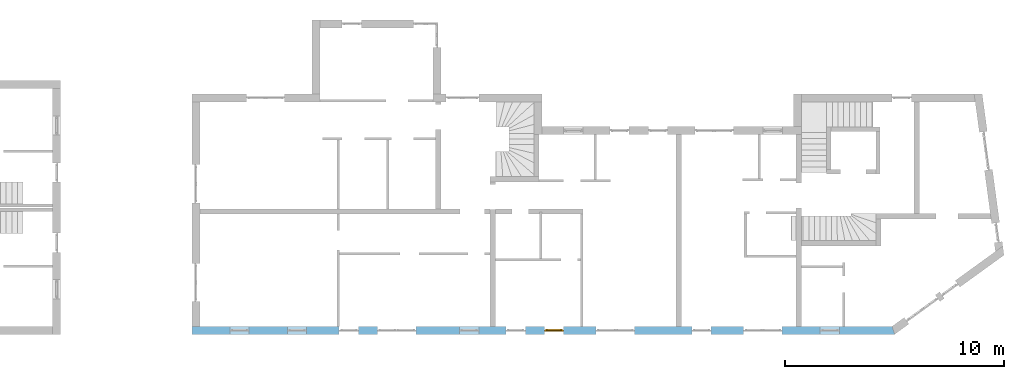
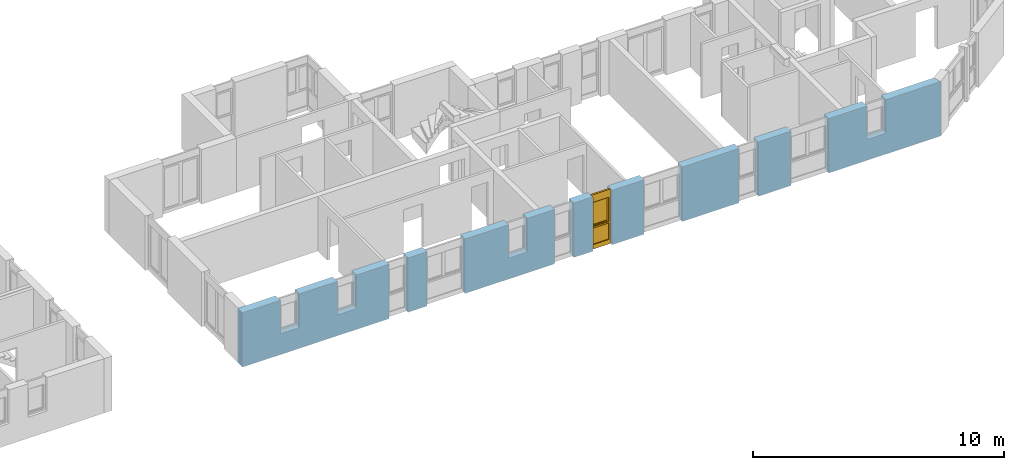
# One storey, part 25 of 42: 1 window, 11 openings, plus 1 element that does not belong to this part.
"""IFC2X3 building model written with IfcOpenShell, lengths in millimetres."""

import ifcopenshell
import ifcopenshell.guid

model = None  # the IFC model being written
_history = None  # IfcOwnerHistory: only IFC2X3 demands one
_inside = {}  # id of a spatial element -> (the spatial element, [elements in it])
_under = {}  # id of a project, library or spatial element -> (it, [spatial elements below it])
_declared = {}  # id of a project -> (the project, [libraries it declares])
_typed = {}  # id of a type object -> (the type object, [elements of that type])
_made_of = {}  # id of a material, layer set ... -> (it, [elements and type objects made of it])


def new_model(schema):
    """Start an empty IFC model of exactly this schema.

    Asked for "IFC4X3", IfcOpenShell would pick the latest addendum, in which some entities
    have other attributes; the version numbers below select the first issue.
    IFC2X3 requires an IfcOwnerHistory on every rooted entity: one is made here for all.
    """
    global model, _history
    if schema == "IFC4X3":
        model = ifcopenshell.file(schema_version=(4, 3, 0, 0))
    else:
        model = ifcopenshell.file(schema=schema)
    _inside.clear()
    _under.clear()
    _declared.clear()
    _typed.clear()
    _made_of.clear()
    _history = None
    if model.schema == "IFC2X3":
        org = make("IfcOrganization", Name="unknown")
        user = make(
            "IfcPersonAndOrganization",
            ThePerson=make("IfcPerson", FamilyName="unknown"),
            TheOrganization=org,
        )
        app = make(
            "IfcApplication",
            ApplicationDeveloper=org,
            Version="unknown",
            ApplicationFullName="unknown",
            ApplicationIdentifier="unknown",
        )
        _history = make(
            "IfcOwnerHistory",
            OwningUser=user,
            OwningApplication=app,
            ChangeAction="ADDED",
            CreationDate=0,
        )
    return model


def make(cls, **values):
    """One entity of the class cls with the attributes given. An attribute that is None is left unset."""
    return model.create_entity(
        cls, **{name: value for name, value in values.items() if value is not None}
    )


def entity(cls, *values):
    """Any entity or typed value of the class cls, its attributes in the order of the schema. None: left unset."""
    e = model.create_entity(cls)
    for i, value in enumerate(values):
        if value is not None:
            e[i] = value
    return e


def rooted(cls, **values):
    """An entity with a GlobalId (a new one), such as an element, a storey or a relation."""
    return make(cls, GlobalId=ifcopenshell.guid.new(), OwnerHistory=_history, **values)


def si_unit(unit_type, name, prefix=None):
    """IfcSIUnit, for example si_unit("LENGTHUNIT", "METRE", prefix="MILLI")."""
    return make("IfcSIUnit", UnitType=unit_type, Prefix=prefix, Name=name)


def converted_unit(unit_type, name, factor, base, dimensions=None, offset=None):
    """IfcConversionBasedUnit, such as the inch: factor (a typed value) times the base unit."""
    return make(
        "IfcConversionBasedUnit"
        if offset is None
        else "IfcConversionBasedUnitWithOffset",
        ConversionOffset=offset,
        Dimensions=None
        if dimensions is None
        else entity("IfcDimensionalExponents", *dimensions),
        UnitType=unit_type,
        Name=name,
        ConversionFactor=make(
            "IfcMeasureWithUnit", ValueComponent=factor, UnitComponent=base
        ),
    )


def assignment(units):
    """IfcUnitAssignment: the units of a project."""
    return None if units is None else make("IfcUnitAssignment", Units=units)


def point(xyz):
    """IfcCartesianPoint."""
    return None if xyz is None else make("IfcCartesianPoint", Coordinates=xyz)


def direction(xyz):
    """IfcDirection."""
    return None if xyz is None else make("IfcDirection", DirectionRatios=xyz)


def frame(location, z_axis=None, x_axis=None):
    """IfcAxis2Placement3D, a coordinate frame: its origin and axes. An axis left out is left unset."""
    return make(
        "IfcAxis2Placement3D",
        Location=point(location),
        Axis=direction(z_axis),
        RefDirection=direction(x_axis),
    )


def frame_2d(location, x_axis=None):
    """IfcAxis2Placement2D, a coordinate frame in the plane: its origin and x axis."""
    return make(
        "IfcAxis2Placement2D", Location=point(location), RefDirection=direction(x_axis)
    )


def origin():
    """The frame at (0, 0, 0) with its axes left unset."""
    return frame((0.0, 0.0, 0.0))


def origin_with_axes():
    """The frame at (0, 0, 0) with the z axis (0, 0, 1) and the x axis (1, 0, 0) written out."""
    return frame((0.0, 0.0, 0.0), z_axis=(0.0, 0.0, 1.0), x_axis=(1.0, 0.0, 0.0))


def place(relative_to, where):
    """IfcLocalPlacement: puts the frame where relative to a parent placement (None: the world)."""
    return make(
        "IfcLocalPlacement", PlacementRelTo=relative_to, RelativePlacement=where
    )


def context(
    kind, dimensions, precision=None, world=None, true_north=None, identifier=None
):
    """IfcGeometricRepresentationContext, for example the 3D "Model" context."""
    return make(
        "IfcGeometricRepresentationContext",
        ContextIdentifier=identifier,
        ContextType=kind,
        CoordinateSpaceDimension=dimensions,
        Precision=precision,
        WorldCoordinateSystem=world,
        TrueNorth=true_north,
    )


def subcontext(parent, identifier, kind, view, scale=None):
    """IfcGeometricRepresentationSubContext, for example "Body" below "Model"."""
    return make(
        "IfcGeometricRepresentationSubContext",
        ContextIdentifier=identifier,
        ContextType=kind,
        ParentContext=parent,
        TargetScale=scale,
        TargetView=view,
    )


def project(units=None, contexts=None):
    """IfcProject with its units and contexts."""
    return rooted(
        "IfcProject",
        Name="project",
        RepresentationContexts=contexts,
        UnitsInContext=assignment(units),
    )


def spatial(cls, under=None, at=None, **own):
    """A site, building, storey or space (cls), placed at a placement, below another one or the project."""
    s = rooted(cls, ObjectPlacement=at, **own)
    if under is not None:
        _under.setdefault(under.id(), (under, []))[1].append(s)
    return s


def polyline(points):
    """IfcPolyline through the points."""
    return make("IfcPolyline", Points=[point(p) for p in points])


def profile(cls, at=None, kind="AREA", **sizes):
    """A parametric profile (cls). Its sizes go by their IFC names, for example OverallWidth=200.0."""
    return make(cls, ProfileType=kind, Position=at, **sizes)


def rectangle(**sizes):
    """IfcRectangleProfileDef."""
    return profile("IfcRectangleProfileDef", **sizes)


def outline(outer, holes=None, kind="AREA"):
    """IfcArbitraryClosedProfileDef: a profile drawn as a closed curve; with holes, ...WithVoids."""
    if holes is None:
        return make("IfcArbitraryClosedProfileDef", ProfileType=kind, OuterCurve=outer)
    return make(
        "IfcArbitraryProfileDefWithVoids",
        ProfileType=kind,
        OuterCurve=outer,
        InnerCurves=holes,
    )


def extrude(swept, where, along, depth):
    """IfcExtrudedAreaSolid: the profile swept, set in the frame where, extruded along a direction by depth."""
    return make(
        "IfcExtrudedAreaSolid",
        SweptArea=swept,
        Position=where,
        ExtrudedDirection=direction(along),
        Depth=depth,
    )


def faces_of(points, faces, orient=None, outer=None):
    """IfcFace entities. A face is a list of loops; a loop is a list of indices into points, from 0.

    orient and outer hold one flag for each loop. By default every Orientation is true, the
    first loop of a face is its IfcFaceOuterBound and the others are IfcFaceBound.
    """
    made = []
    for i, loops in enumerate(faces):
        bounds = []
        for j, loop in enumerate(loops):
            is_outer = j == 0 if outer is None else outer[i][j]
            bounds.append(
                make(
                    "IfcFaceOuterBound" if is_outer else "IfcFaceBound",
                    Bound=make("IfcPolyLoop", Polygon=[points[k] for k in loop]),
                    Orientation=True if orient is None else orient[i][j],
                )
            )
        made.append(make("IfcFace", Bounds=bounds))
    return made


def faceted_brep(points, faces, orient=None, outer=None, voids=None):
    """IfcFacetedBrep: a solid bounded by flat faces; with voids (closed shells), ...WithVoids."""
    shared = [point(p) for p in points]
    hull = make("IfcClosedShell", CfsFaces=faces_of(shared, faces, orient, outer))
    if voids is None:
        return make("IfcFacetedBrep", Outer=hull)
    return make(
        "IfcFacetedBrepWithVoids",
        Outer=hull,
        Voids=[
            make(cls, CfsFaces=faces_of(shared, fs, o, b)) for cls, fs, o, b in voids
        ],
    )


def shape(context_of_items, identifier, shape_type, items):
    """IfcShapeRepresentation: the items that make up one representation, for example the "Body"."""
    return make(
        "IfcShapeRepresentation",
        ContextOfItems=context_of_items,
        RepresentationIdentifier=identifier,
        RepresentationType=shape_type,
        Items=items,
    )


def material(Name=None, Category=None):
    """IfcMaterial."""
    return make("IfcMaterial", Name=Name, Category=Category)


def layer(
    of_material, thickness, ventilated=None, Name=None, Category=None, Priority=None
):
    """IfcMaterialLayer: one layer of a wall or slab, of a material (None: an air gap)."""
    return make(
        "IfcMaterialLayer",
        Material=of_material,
        LayerThickness=thickness,
        IsVentilated=ventilated,
        Name=Name,
        Category=Category,
        Priority=Priority,
    )


def layer_set(layers, Name=None):
    """IfcMaterialLayerSet."""
    return make("IfcMaterialLayerSet", MaterialLayers=layers, LayerSetName=Name)


def layer_usage(for_layer_set, set_direction, sense, offset, extent=None):
    """IfcMaterialLayerSetUsage: how a layer set lies in its element."""
    return make(
        "IfcMaterialLayerSetUsage",
        ForLayerSet=for_layer_set,
        LayerSetDirection=set_direction,
        DirectionSense=sense,
        OffsetFromReferenceLine=offset,
        ReferenceExtent=extent,
    )


def made_of(thing, what):
    """Note that an element or type object is made of a material, layer set ...; save() writes the relation."""
    if what is not None:
        _made_of.setdefault(what.id(), (what, []))[1].append(thing)
    return thing


def type_object(cls, material=None, **own):
    """A type object (cls), such as IfcWallType, which elements share."""
    return made_of(rooted(cls, **own), material)


def element(
    cls,
    number,
    at=None,
    inside=None,
    cuts=None,
    type_object=None,
    material=None,
    context=None,
    identifier="Body",
    shape_type=None,
    held_by="IfcProductDefinitionShape",
    body=None,
    shapes=None,
    **own,
):
    """One element of the class cls, such as IfcWall. Its Tag is "e" and its number.

    at: its placement. inside: the storey or other place that contains it. cuts: it is an
    opening in that element (IfcRelVoidsElement). A single representation is given by context,
    identifier, shape_type and body (its items); several are given by shapes. held_by: the class
    of the entity that holds the representations. save() writes the other relations.
    """
    e = rooted(cls, Tag="e%d" % number, ObjectPlacement=at, **own)
    if body is not None:
        shapes = [shape(context, identifier, shape_type, body)]
    if shapes is not None:
        e.Representation = make(held_by, Representations=shapes)
    if inside is not None:
        _inside.setdefault(inside.id(), (inside, []))[1].append(e)
    if cuts is not None:
        rooted(
            "IfcRelVoidsElement", RelatingBuildingElement=cuts, RelatedOpeningElement=e
        )
    if type_object is not None:
        _typed.setdefault(type_object.id(), (type_object, []))[1].append(e)
    return made_of(e, material)


def fill(opening, filler):
    """IfcRelFillsElement: the door or window that sits in an opening."""
    return rooted(
        "IfcRelFillsElement",
        RelatingOpeningElement=opening,
        RelatedBuildingElement=filler,
    )


def aggregate(whole, parts):
    """IfcRelAggregates: a whole, such as a stair, and the parts it consists of."""
    return rooted("IfcRelAggregates", RelatingObject=whole, RelatedObjects=parts)


def save(model, path):
    """Write the relations noted so far, then the file.

    IfcRelAggregates (storeys below a building ...), IfcRelContainedInSpatialStructure (elements
    in a storey), IfcRelDefinesByType, IfcRelAssociatesMaterial and IfcRelDeclares: one each for
    every whole, place, type object, material and project.
    """
    for whole, parts in _under.values():
        aggregate(whole, parts)
    for where, things in _inside.values():
        rooted(
            "IfcRelContainedInSpatialStructure",
            RelatedElements=things,
            RelatingStructure=where,
        )
    for kind, things in _typed.values():
        rooted("IfcRelDefinesByType", RelatedObjects=things, RelatingType=kind)
    for what, things in _made_of.values():
        rooted("IfcRelAssociatesMaterial", RelatedObjects=things, RelatingMaterial=what)
    for by, libraries in _declared.values():
        rooted("IfcRelDeclares", RelatingContext=by, RelatedDefinitions=libraries)
    model.write(path)


model = new_model("IFC2X3")

# Units and contexts
model_context = context("Model", 3, precision=1e-05, world=origin())
body_context = subcontext(model_context, "Body", "Model", "MODEL_VIEW")
ifc_project = project(units=[si_unit("LENGTHUNIT", "METRE", prefix="MILLI"), converted_unit("PLANEANGLEUNIT", "DEGREE", entity("IfcPlaneAngleMeasure", 0.0174532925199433), si_unit("PLANEANGLEUNIT", "RADIAN"), dimensions=[0, 0, 0, 0, 0, 0, 0]), si_unit("AREAUNIT", "SQUARE_METRE"), si_unit("VOLUMEUNIT", "CUBIC_METRE")], contexts=[model_context])

# Building, storey
building_placement = place(None, origin())
building = spatial("IfcBuilding", under=ifc_project, at=building_placement, Name="Gebäude", CompositionType="ELEMENT")
storey_placement = place(building_placement, frame((0.0, 0.0, 2730.0), z_axis=(0.0, 0.0, 1.0), x_axis=(1.0, 0.0, 0.0)))
storey = spatial("IfcBuildingStorey", under=building, at=storey_placement, Name="OG.- Grundriss", CompositionType="ELEMENT", Elevation=2730.0)

# Wall, openings, window
ifc_material_1 = material(Name="Poroton")
ifc_layer = layer(ifc_material_1, 365.0000000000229)
ifc_layer_set = layer_set([ifc_layer])
ifc_layer_usage = layer_usage(ifc_layer_set, "AXIS2", "POSITIVE", 0.0)
wall_placement = place(storey_placement, frame((148357.7928067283, 125274.8877324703, 0.0), z_axis=(0.0, 0.0, 1.0), x_axis=(1.0, -2.749268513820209e-11, 0.0)))
wall = element("IfcWallStandardCase", 1, at=wall_placement, inside=storey, material=ifc_layer_usage, Name="<Unnamed Element>", context=body_context, shape_type="SweptSolid", body=[
    extrude(outline(polyline([(0.0, 0.0), (32144.99999877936, 0.0), (32026.74038666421, 365.0000000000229), (-1.003483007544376e-08, 365.0), (0.0, 0.0)])), origin_with_axes(), (0.0, 0.0, 1.0), 2650.0),
])
opening_1_placement = place(wall_placement, frame((22865.29648749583, -9.393166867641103e-11, 0.0), z_axis=(0.0, 1.0, 0.0), x_axis=(0.0, 0.0, 1.0)))
element("IfcOpeningElement", 2, at=opening_1_placement, cuts=wall, Name="Fensteröffnung", ObjectType="Opening", context=body_context, shape_type="SweptSolid", body=[
    extrude(rectangle(XDim=2650.0, YDim=885.0, at=frame_2d((1325.0, 442.5), x_axis=(1.0, 0.0))), origin_with_axes(), (0.0, 0.0, 1.0), 365.0000000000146),
])
opening_2_placement = place(wall_placement, frame((25240.29648749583, -1.030266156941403e-10, 0.0), z_axis=(0.0, 1.0, 0.0), x_axis=(0.0, 0.0, 1.0)))
element("IfcOpeningElement", 3, at=opening_2_placement, cuts=wall, Name="Fensteröffnung", ObjectType="Opening", context=body_context, shape_type="SweptSolid", body=[
    extrude(rectangle(XDim=2650.0, YDim=1760.0, at=frame_2d((1325.0, 880.0), x_axis=(1.0, 0.0))), origin_with_axes(), (0.0, 0.0, 1.0), 365.0000000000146),
])
opening_3_placement = place(wall_placement, frame((14365.26291869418, -5.847463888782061e-11, 0.0), z_axis=(0.0, 1.0, 0.0), x_axis=(0.0, 0.0, 1.0)))
element("IfcOpeningElement", 4, at=opening_3_placement, cuts=wall, Name="Fensteröffnung", ObjectType="Opening", context=body_context, shape_type="SweptSolid", body=[
    extrude(rectangle(XDim=2650.0, YDim=885.0, at=frame_2d((1325.0, 442.5), x_axis=(1.0, 0.0))), origin_with_axes(), (0.0, 0.0, 1.0), 365.0000000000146),
])
opening_4_placement = place(wall_placement, frame((16123.92212975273, -7.146586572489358e-11, 0.0), z_axis=(0.0, 1.0, 0.0), x_axis=(0.0, 0.0, 1.0)))
opening_4 = element("IfcOpeningElement", 5, at=opening_4_placement, cuts=wall, Name="Fensteröffnung", ObjectType="Opening", context=body_context, shape_type="SweptSolid", body=[
    extrude(rectangle(XDim=2650.0, YDim=885.0, at=frame_2d((1325.0, 442.5), x_axis=(1.0, 0.0))), origin_with_axes(), (0.0, 0.0, 1.0), 365.0000000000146),
])
opening_5_placement = place(wall_placement, frame((6739.999999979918, -3.114109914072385e-11, 0.0), z_axis=(0.0, 1.0, 0.0), x_axis=(0.0, 0.0, 1.0)))
element("IfcOpeningElement", 6, at=opening_5_placement, cuts=wall, Name="Fensteröffnung", ObjectType="Opening", context=body_context, shape_type="SweptSolid", body=[
    extrude(rectangle(XDim=2650.0, YDim=885.0, at=frame_2d((1325.0, 442.5), x_axis=(1.0, 0.0))), origin_with_axes(), (0.0, 0.0, 1.0), 365.0000000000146),
])
opening_6_placement = place(wall_placement, frame((8489.999999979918, -3.477907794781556e-11, 0.0), z_axis=(0.0, 1.0, 0.0), x_axis=(0.0, 0.0, 1.0)))
element("IfcOpeningElement", 7, at=opening_6_placement, cuts=wall, Name="Fensteröffnung", ObjectType="Opening", context=body_context, shape_type="SweptSolid", body=[
    extrude(rectangle(XDim=2650.0, YDim=1760.0, at=frame_2d((1325.0, 880.0), x_axis=(1.0, 0.0))), origin_with_axes(), (0.0, 0.0, 1.0), 365.0000000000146),
])
opening_7_placement = place(wall_placement, frame((1740.0, -3.114109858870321e-11, 1020.0), z_axis=(0.0, 1.0, 0.0), x_axis=(0.0, 0.0, 1.0)))
element("IfcOpeningElement", 8, at=opening_7_placement, cuts=wall, Name="Fensteröffnung", ObjectType="Opening", context=body_context, shape_type="SweptSolid", body=[
    extrude(rectangle(XDim=1630.0, YDim=885.0, at=frame_2d((815.0, 442.5), x_axis=(1.0, 0.0))), origin_with_axes(), (0.0, 0.0, 1.0), 365.0000000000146),
])
opening_8_placement = place(wall_placement, frame((4365.0, -7.494236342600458e-12, 1020.0), z_axis=(0.0, 1.0, 0.0), x_axis=(0.0, 0.0, 1.0)))
element("IfcOpeningElement", 9, at=opening_8_placement, cuts=wall, Name="Fensteröffnung", ObjectType="Opening", context=body_context, shape_type="SweptSolid", body=[
    extrude(rectangle(XDim=1630.0, YDim=885.0, at=frame_2d((815.0, 442.5), x_axis=(1.0, 0.0))), origin_with_axes(), (0.0, 0.0, 1.0), 365.0000000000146),
])
opening_9_placement = place(wall_placement, frame((12240.0, -5.296897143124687e-11, 1020.0), z_axis=(0.0, 1.0, 0.0), x_axis=(0.0, 0.0, 1.0)))
element("IfcOpeningElement", 10, at=opening_9_placement, cuts=wall, Name="Fensteröffnung", ObjectType="Opening", context=body_context, shape_type="SweptSolid", body=[
    extrude(rectangle(XDim=1630.0, YDim=885.0, at=frame_2d((815.0, 442.5), x_axis=(1.0, 0.0))), origin_with_axes(), (0.0, 0.0, 1.0), 365.0000000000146),
])
opening_10_placement = place(wall_placement, frame((18490.51063065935, -4.984640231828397e-11, 0.0), z_axis=(0.0, 1.0, 0.0), x_axis=(0.0, 0.0, 1.0)))
element("IfcOpeningElement", 11, at=opening_10_placement, cuts=wall, Name="Fensteröffnung", ObjectType="Opening", context=body_context, shape_type="SweptSolid", body=[
    extrude(rectangle(XDim=2650.0, YDim=1760.0, at=frame_2d((1325.0, 880.0), x_axis=(1.0, 0.0))), origin_with_axes(), (0.0, 0.0, 1.0), 365.0000000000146),
])
opening_11_placement = place(wall_placement, frame((28740.29648749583, -1.103025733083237e-10, 1020.0), z_axis=(0.0, 1.0, 0.0), x_axis=(0.0, 0.0, 1.0)))
element("IfcOpeningElement", 12, at=opening_11_placement, cuts=wall, Name="Fensteröffnung", ObjectType="Opening", context=body_context, shape_type="SweptSolid", body=[
    extrude(rectangle(XDim=1630.0, YDim=885.0, at=frame_2d((815.0, 442.5), x_axis=(1.0, 0.0))), origin_with_axes(), (0.0, 0.0, 1.0), 365.0000000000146),
])
ifc_material_2 = material()
window_style = type_object("IfcWindowStyle", Name="Fenster", ConstructionType="NOTDEFINED", OperationType="USERDEFINED", ParameterTakesPrecedence=False, Sizeable=False)
window_placement = place(opening_4_placement, frame((0.0, 0.0, 0.0), z_axis=(1.0, 0.0, 0.0), x_axis=(0.0, 1.0, 0.0)))
window = element("IfcWindow", 13, at=window_placement, inside=storey, type_object=window_style, material=ifc_material_2, Name="Fenster", OverallHeight=2650.0, OverallWidth=885.0, context=body_context, shape_type="Brep", body=[
    faceted_brep([(885.0000000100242, 200.000000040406, 2650.0), (815.0000000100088, 200.0000000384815, 2650.0), (815.0000000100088, 200.0000000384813, -2.449293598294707e-15), (885.0000000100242, 200.0000000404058, -2.449293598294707e-15), (885.0000000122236, 120.0000000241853, 2.449293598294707e-15), (815.0000000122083, 120.0000000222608, 2.449293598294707e-15), (815.0000000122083, 120.000000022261, 2650.0), (885.0000000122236, 120.0000000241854, 2650.0), (885.0000000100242, 200.0000000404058, -2.449293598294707e-15), (885.0000000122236, 120.0000000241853, 2.449293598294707e-15), (885.0000000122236, 120.0000000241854, 2650.0), (885.0000000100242, 200.000000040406, 2650.0), (815.0000000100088, 200.0000000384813, -2.449293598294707e-15), (815.0000000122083, 120.0000000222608, 2.449293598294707e-15), (885.0000000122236, 120.0000000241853, 2.449293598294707e-15), (885.0000000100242, 200.0000000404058, -2.449293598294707e-15), (815.0000000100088, 200.0000000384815, 2650.0), (815.0000000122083, 120.000000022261, 2650.0), (815.0000000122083, 120.0000000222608, 2.449293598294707e-15), (815.0000000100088, 200.0000000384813, -2.449293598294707e-15), (885.0000000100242, 200.000000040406, 2650.0), (885.0000000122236, 120.0000000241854, 2650.0), (815.0000000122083, 120.000000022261, 2650.0), (815.0000000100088, 200.0000000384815, 2650.0)], [[[0, 1, 2, 3]], [[4, 5, 6, 7]], [[8, 9, 10, 11]], [[12, 13, 14, 15]], [[16, 17, 18, 19]], [[20, 21, 22, 23]]], orient=[[False], [False], [False], [False], [False], [False]]),
    faceted_brep([(69.99999999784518, 200.0000000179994, 2650.0), (-2.170168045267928e-09, 200.0000000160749, 2650.0), (-2.170168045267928e-09, 200.0000000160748, -2.449293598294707e-15), (69.99999999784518, 200.0000000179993, -2.449293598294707e-15), (70.00000000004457, 120.0000000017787, 2.449293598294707e-15), (2.921751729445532e-11, 119.9999999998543, 2.449293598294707e-15), (2.921751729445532e-11, 119.9999999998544, 2650.0), (70.00000000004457, 120.0000000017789, 2650.0), (69.99999999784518, 200.0000000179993, -2.449293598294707e-15), (70.00000000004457, 120.0000000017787, 2.449293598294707e-15), (70.00000000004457, 120.0000000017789, 2650.0), (69.99999999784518, 200.0000000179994, 2650.0), (-2.170168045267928e-09, 200.0000000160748, -2.449293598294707e-15), (2.921751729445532e-11, 119.9999999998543, 2.449293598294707e-15), (70.00000000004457, 120.0000000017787, 2.449293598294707e-15), (69.99999999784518, 200.0000000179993, -2.449293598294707e-15), (-2.170168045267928e-09, 200.0000000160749, 2650.0), (2.921751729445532e-11, 119.9999999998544, 2650.0), (2.921751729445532e-11, 119.9999999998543, 2.449293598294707e-15), (-2.170168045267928e-09, 200.0000000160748, -2.449293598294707e-15), (69.99999999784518, 200.0000000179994, 2650.0), (70.00000000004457, 120.0000000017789, 2650.0), (2.921751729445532e-11, 119.9999999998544, 2650.0), (-2.170168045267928e-09, 200.0000000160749, 2650.0)], [[[0, 1, 2, 3]], [[4, 5, 6, 7]], [[8, 9, 10, 11]], [[12, 13, 14, 15]], [[16, 17, 18, 19]], [[20, 21, 22, 23]]], orient=[[False], [False], [False], [False], [False], [False]]),
    faceted_brep([(815.0000000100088, 200.0000000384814, 220.0), (69.99999999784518, 200.0000000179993, 220.0), (69.99999999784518, 200.0000000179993, -2.449293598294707e-15), (815.0000000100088, 200.0000000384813, -2.449293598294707e-15), (815.0000000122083, 120.0000000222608, 2.449293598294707e-15), (70.00000000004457, 120.0000000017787, 2.449293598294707e-15), (70.00000000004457, 120.0000000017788, 220.0), (815.0000000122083, 120.0000000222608, 220.0), (815.0000000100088, 200.0000000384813, -2.449293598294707e-15), (815.0000000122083, 120.0000000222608, 2.449293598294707e-15), (815.0000000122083, 120.0000000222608, 220.0), (815.0000000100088, 200.0000000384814, 220.0), (69.99999999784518, 200.0000000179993, -2.449293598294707e-15), (70.00000000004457, 120.0000000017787, 2.449293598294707e-15), (815.0000000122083, 120.0000000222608, 2.449293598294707e-15), (815.0000000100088, 200.0000000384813, -2.449293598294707e-15), (69.99999999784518, 200.0000000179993, 220.0), (70.00000000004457, 120.0000000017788, 220.0), (70.00000000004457, 120.0000000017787, 2.449293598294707e-15), (69.99999999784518, 200.0000000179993, -2.449293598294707e-15), (815.0000000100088, 200.0000000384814, 220.0), (815.0000000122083, 120.0000000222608, 220.0), (70.00000000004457, 120.0000000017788, 220.0), (69.99999999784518, 200.0000000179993, 220.0)], [[[0, 1, 2, 3]], [[4, 5, 6, 7]], [[8, 9, 10, 11]], [[12, 13, 14, 15]], [[16, 17, 18, 19]], [[20, 21, 22, 23]]], orient=[[False], [False], [False], [False], [False], [False]]),
    faceted_brep([(815.0000000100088, 200.0000000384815, 2650.0), (69.99999999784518, 200.0000000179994, 2650.0), (69.99999999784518, 200.0000000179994, 2280.0), (815.0000000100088, 200.0000000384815, 2280.0), (815.0000000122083, 120.0000000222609, 2280.0), (70.00000000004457, 120.0000000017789, 2280.0), (70.00000000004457, 120.0000000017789, 2650.0), (815.0000000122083, 120.000000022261, 2650.0), (815.0000000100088, 200.0000000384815, 2280.0), (815.0000000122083, 120.0000000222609, 2280.0), (815.0000000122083, 120.000000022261, 2650.0), (815.0000000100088, 200.0000000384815, 2650.0), (69.99999999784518, 200.0000000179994, 2280.0), (70.00000000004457, 120.0000000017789, 2280.0), (815.0000000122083, 120.0000000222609, 2280.0), (815.0000000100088, 200.0000000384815, 2280.0), (69.99999999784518, 200.0000000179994, 2650.0), (70.00000000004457, 120.0000000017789, 2650.0), (70.00000000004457, 120.0000000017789, 2280.0), (69.99999999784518, 200.0000000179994, 2280.0), (815.0000000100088, 200.0000000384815, 2650.0), (815.0000000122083, 120.000000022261, 2650.0), (70.00000000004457, 120.0000000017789, 2650.0), (69.99999999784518, 200.0000000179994, 2650.0)], [[[0, 1, 2, 3]], [[4, 5, 6, 7]], [[8, 9, 10, 11]], [[12, 13, 14, 15]], [[16, 17, 18, 19]], [[20, 21, 22, 23]]], orient=[[False], [False], [False], [False], [False], [False]]),
    faceted_brep([(815.0000000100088, 200.0000000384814, 1090.0), (69.99999999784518, 200.0000000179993, 1090.0), (69.99999999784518, 200.0000000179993, 1020.0), (815.0000000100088, 200.0000000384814, 1020.0), (815.0000000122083, 120.0000000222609, 1020.0), (70.00000000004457, 120.0000000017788, 1020.0), (70.00000000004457, 120.0000000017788, 1090.0), (815.0000000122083, 120.0000000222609, 1090.0), (815.0000000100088, 200.0000000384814, 1020.0), (815.0000000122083, 120.0000000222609, 1020.0), (815.0000000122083, 120.0000000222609, 1090.0), (815.0000000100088, 200.0000000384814, 1090.0), (69.99999999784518, 200.0000000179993, 1020.0), (70.00000000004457, 120.0000000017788, 1020.0), (815.0000000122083, 120.0000000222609, 1020.0), (815.0000000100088, 200.0000000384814, 1020.0), (69.99999999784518, 200.0000000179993, 1090.0), (70.00000000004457, 120.0000000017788, 1090.0), (70.00000000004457, 120.0000000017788, 1020.0), (69.99999999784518, 200.0000000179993, 1020.0), (815.0000000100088, 200.0000000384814, 1090.0), (815.0000000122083, 120.0000000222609, 1090.0), (70.00000000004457, 120.0000000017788, 1090.0), (69.99999999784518, 200.0000000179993, 1090.0)], [[[0, 1, 2, 3]], [[4, 5, 6, 7]], [[8, 9, 10, 11]], [[12, 13, 14, 15]], [[16, 17, 18, 19]], [[20, 21, 22, 23]]], orient=[[False], [False], [False], [False], [False], [False]]),
    faceted_brep([(815.0000000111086, 160.0000000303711, 220.0), (815.0000000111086, 160.0000000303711, 1020.0), (69.99999999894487, 160.0000000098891, 1020.0), (69.99999999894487, 160.000000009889, 220.0), (815.0000000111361, 159.0000000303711, 220.0), (69.99999999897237, 159.000000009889, 220.0), (69.99999999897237, 159.0000000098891, 1020.0), (815.0000000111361, 159.0000000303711, 1020.0), (815.0000000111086, 160.0000000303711, 220.0), (815.0000000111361, 159.0000000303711, 220.0), (815.0000000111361, 159.0000000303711, 1020.0), (815.0000000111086, 160.0000000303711, 1020.0), (815.0000000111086, 160.0000000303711, 1020.0), (815.0000000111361, 159.0000000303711, 1020.0), (69.99999999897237, 159.0000000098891, 1020.0), (69.99999999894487, 160.0000000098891, 1020.0), (69.99999999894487, 160.0000000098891, 1020.0), (69.99999999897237, 159.0000000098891, 1020.0), (69.99999999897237, 159.000000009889, 220.0), (69.99999999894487, 160.000000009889, 220.0), (69.99999999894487, 160.000000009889, 220.0), (69.99999999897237, 159.000000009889, 220.0), (815.0000000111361, 159.0000000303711, 220.0), (815.0000000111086, 160.0000000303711, 220.0)], [[[0, 1, 2, 3]], [[4, 5, 6, 7]], [[8, 9, 10, 11]], [[12, 13, 14, 15]], [[16, 17, 18, 19]], [[20, 21, 22, 23]]], orient=[[False], [False], [False], [False], [False], [False]]),
    faceted_brep([(835.0000000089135, 240.0000000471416, 2300.0), (765.0000000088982, 240.0000000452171, 2300.0), (765.0000000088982, 240.000000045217, 1070.0), (835.0000000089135, 240.0000000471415, 1070.0), (835.000000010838, 170.0000000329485, 1070.0), (765.0000000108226, 170.0000000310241, 1070.0), (765.0000000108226, 170.0000000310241, 2300.0), (835.000000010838, 170.0000000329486, 2300.0), (835.0000000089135, 240.0000000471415, 1070.0), (835.000000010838, 170.0000000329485, 1070.0), (835.000000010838, 170.0000000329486, 2300.0), (835.0000000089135, 240.0000000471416, 2300.0), (765.0000000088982, 240.000000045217, 1070.0), (765.0000000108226, 170.0000000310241, 1070.0), (835.000000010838, 170.0000000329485, 1070.0), (835.0000000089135, 240.0000000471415, 1070.0), (765.0000000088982, 240.0000000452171, 2300.0), (765.0000000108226, 170.0000000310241, 2300.0), (765.0000000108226, 170.0000000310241, 1070.0), (765.0000000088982, 240.000000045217, 1070.0), (835.0000000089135, 240.0000000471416, 2300.0), (835.000000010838, 170.0000000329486, 2300.0), (765.0000000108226, 170.0000000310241, 2300.0), (765.0000000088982, 240.0000000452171, 2300.0)], [[[0, 1, 2, 3]], [[4, 5, 6, 7]], [[8, 9, 10, 11]], [[12, 13, 14, 15]], [[16, 17, 18, 19]], [[20, 21, 22, 23]]], orient=[[False], [False], [False], [False], [False], [False]]),
    faceted_brep([(119.9999999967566, 240.0000000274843, 2300.0), (49.99999999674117, 240.0000000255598, 2300.0), (49.99999999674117, 240.0000000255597, 1070.0), (119.9999999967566, 240.0000000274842, 1070.0), (119.9999999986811, 170.0000000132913, 1070.0), (49.99999999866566, 170.0000000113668, 1070.0), (49.99999999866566, 170.0000000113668, 2300.0), (119.9999999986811, 170.0000000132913, 2300.0), (119.9999999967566, 240.0000000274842, 1070.0), (119.9999999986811, 170.0000000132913, 1070.0), (119.9999999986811, 170.0000000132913, 2300.0), (119.9999999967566, 240.0000000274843, 2300.0), (49.99999999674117, 240.0000000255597, 1070.0), (49.99999999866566, 170.0000000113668, 1070.0), (119.9999999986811, 170.0000000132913, 1070.0), (119.9999999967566, 240.0000000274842, 1070.0), (49.99999999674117, 240.0000000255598, 2300.0), (49.99999999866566, 170.0000000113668, 2300.0), (49.99999999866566, 170.0000000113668, 1070.0), (49.99999999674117, 240.0000000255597, 1070.0), (119.9999999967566, 240.0000000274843, 2300.0), (119.9999999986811, 170.0000000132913, 2300.0), (49.99999999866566, 170.0000000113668, 2300.0), (49.99999999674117, 240.0000000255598, 2300.0)], [[[0, 1, 2, 3]], [[4, 5, 6, 7]], [[8, 9, 10, 11]], [[12, 13, 14, 15]], [[16, 17, 18, 19]], [[20, 21, 22, 23]]], orient=[[False], [False], [False], [False], [False], [False]]),
    faceted_brep([(765.0000000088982, 240.000000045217, 1140.0), (119.9999999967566, 240.0000000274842, 1140.0), (119.9999999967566, 240.0000000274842, 1070.0), (765.0000000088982, 240.000000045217, 1070.0), (765.0000000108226, 170.0000000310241, 1070.0), (119.9999999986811, 170.0000000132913, 1070.0), (119.9999999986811, 170.0000000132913, 1140.0), (765.0000000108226, 170.0000000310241, 1140.0), (765.0000000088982, 240.000000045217, 1070.0), (765.0000000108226, 170.0000000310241, 1070.0), (765.0000000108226, 170.0000000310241, 1140.0), (765.0000000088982, 240.000000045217, 1140.0), (119.9999999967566, 240.0000000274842, 1070.0), (119.9999999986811, 170.0000000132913, 1070.0), (765.0000000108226, 170.0000000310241, 1070.0), (765.0000000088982, 240.000000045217, 1070.0), (119.9999999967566, 240.0000000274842, 1140.0), (119.9999999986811, 170.0000000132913, 1140.0), (119.9999999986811, 170.0000000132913, 1070.0), (119.9999999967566, 240.0000000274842, 1070.0), (765.0000000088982, 240.000000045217, 1140.0), (765.0000000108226, 170.0000000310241, 1140.0), (119.9999999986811, 170.0000000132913, 1140.0), (119.9999999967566, 240.0000000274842, 1140.0)], [[[0, 1, 2, 3]], [[4, 5, 6, 7]], [[8, 9, 10, 11]], [[12, 13, 14, 15]], [[16, 17, 18, 19]], [[20, 21, 22, 23]]], orient=[[False], [False], [False], [False], [False], [False]]),
    faceted_brep([(765.0000000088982, 240.0000000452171, 2300.0), (119.9999999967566, 240.0000000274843, 2300.0), (119.9999999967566, 240.0000000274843, 2230.0), (765.0000000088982, 240.0000000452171, 2230.0), (765.0000000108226, 170.0000000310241, 2230.0), (119.9999999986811, 170.0000000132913, 2230.0), (119.9999999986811, 170.0000000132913, 2300.0), (765.0000000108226, 170.0000000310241, 2300.0), (765.0000000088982, 240.0000000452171, 2230.0), (765.0000000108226, 170.0000000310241, 2230.0), (765.0000000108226, 170.0000000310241, 2300.0), (765.0000000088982, 240.0000000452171, 2300.0), (119.9999999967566, 240.0000000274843, 2230.0), (119.9999999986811, 170.0000000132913, 2230.0), (765.0000000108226, 170.0000000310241, 2230.0), (765.0000000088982, 240.0000000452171, 2230.0), (119.9999999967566, 240.0000000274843, 2300.0), (119.9999999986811, 170.0000000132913, 2300.0), (119.9999999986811, 170.0000000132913, 2230.0), (119.9999999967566, 240.0000000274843, 2230.0), (765.0000000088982, 240.0000000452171, 2300.0), (765.0000000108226, 170.0000000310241, 2300.0), (119.9999999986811, 170.0000000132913, 2300.0), (119.9999999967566, 240.0000000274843, 2300.0)], [[[0, 1, 2, 3]], [[4, 5, 6, 7]], [[8, 9, 10, 11]], [[12, 13, 14, 15]], [[16, 17, 18, 19]], [[20, 21, 22, 23]]], orient=[[False], [False], [False], [False], [False], [False]]),
    faceted_brep([(765.0000000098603, 205.0000000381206, 1140.0), (765.0000000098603, 205.0000000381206, 2230.0), (119.9999999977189, 205.0000000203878, 2230.0), (119.9999999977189, 205.0000000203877, 1140.0), (765.0000000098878, 204.0000000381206, 1140.0), (119.9999999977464, 204.0000000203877, 1140.0), (119.9999999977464, 204.0000000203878, 2230.0), (765.0000000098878, 204.0000000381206, 2230.0), (765.0000000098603, 205.0000000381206, 1140.0), (765.0000000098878, 204.0000000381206, 1140.0), (765.0000000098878, 204.0000000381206, 2230.0), (765.0000000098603, 205.0000000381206, 2230.0), (765.0000000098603, 205.0000000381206, 2230.0), (765.0000000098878, 204.0000000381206, 2230.0), (119.9999999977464, 204.0000000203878, 2230.0), (119.9999999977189, 205.0000000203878, 2230.0), (119.9999999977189, 205.0000000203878, 2230.0), (119.9999999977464, 204.0000000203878, 2230.0), (119.9999999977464, 204.0000000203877, 1140.0), (119.9999999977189, 205.0000000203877, 1140.0), (119.9999999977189, 205.0000000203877, 1140.0), (119.9999999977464, 204.0000000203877, 1140.0), (765.0000000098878, 204.0000000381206, 1140.0), (765.0000000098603, 205.0000000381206, 1140.0)], [[[0, 1, 2, 3]], [[4, 5, 6, 7]], [[8, 9, 10, 11]], [[12, 13, 14, 15]], [[16, 17, 18, 19]], [[20, 21, 22, 23]]], orient=[[False], [False], [False], [False], [False], [False]]),
])
fill(opening_4, window)

save(model, "model.ifc")
